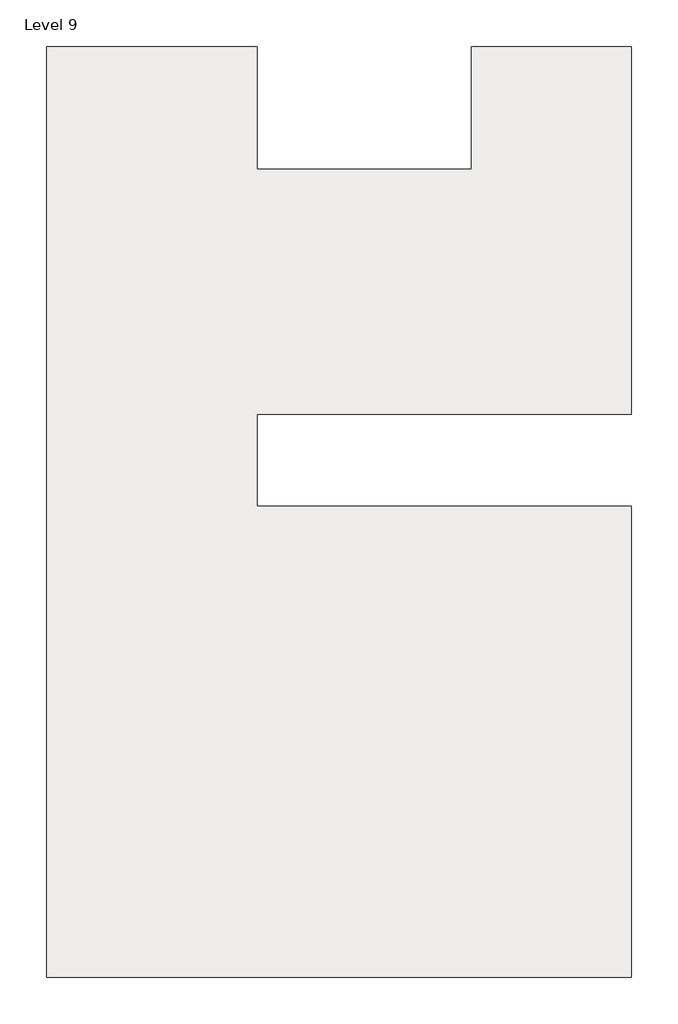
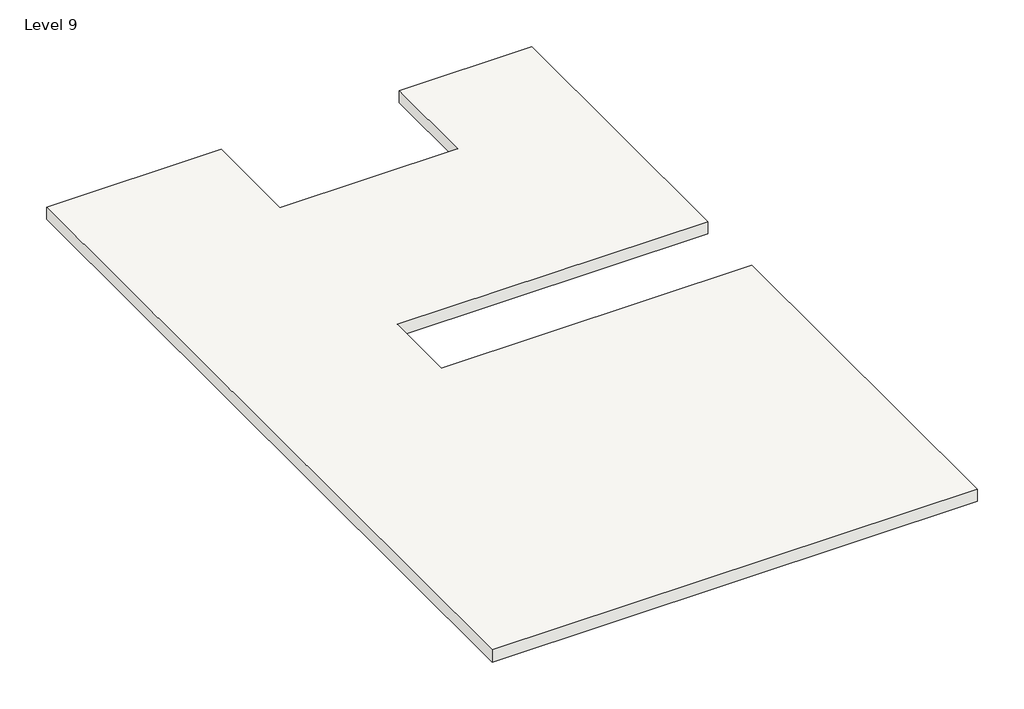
# One storey: 1 roof.
"""IFC4 building model written with IfcOpenShell, lengths in millimetres."""

from ifc_helpers import new_model, si_unit, frame, origin, place, context, project, spatial, polyline, outline, extrude, element, save

model = new_model("IFC4")

# Units and contexts
model_context = context("Model", 3, world=origin())
ifc_project = project(units=[si_unit("LENGTHUNIT", "METRE", prefix="MILLI")], contexts=[model_context])

# Site, building, storey
site = spatial("IfcSite", under=ifc_project)
building = spatial("IfcBuilding", under=site)
storey = spatial("IfcBuildingStorey", under=building, Name="Level 9", Elevation=32000.0)

# Roof
placement = place(None, origin())
element("IfcRoof", 1, ObjectType="Steel Bar Joist - Steel Deck - EPDM Membrane", at=placement, inside=storey, context=model_context, shape_type="SweptSolid", body=[
    extrude(outline(polyline([(-5587.173406, 8375.9839566), (1278.419219, 8375.9839566), (1278.419219, 4375.9839566), (8278.419219, 4375.9839566), (8278.419219, 8375.9839566), (13503.2660975, 8375.9839566), (13503.2660975, -3624.0160434), (1278.419219, -3624.0160434), (1278.419219, -6624.0160434), (13503.2660975, -6624.0160434), (13503.2660975, -21988.7417365), (-5587.173406, -21988.7417365), (-5587.173406, 8375.9839566)])), frame((0.0, 0.0, 27495.0), z_axis=(0.0, 0.0, 1.0), x_axis=(1.0, 0.0, 0.0)), (0.0, 0.0, 1.0), 505.0),
])

save(model, "model.ifc")
